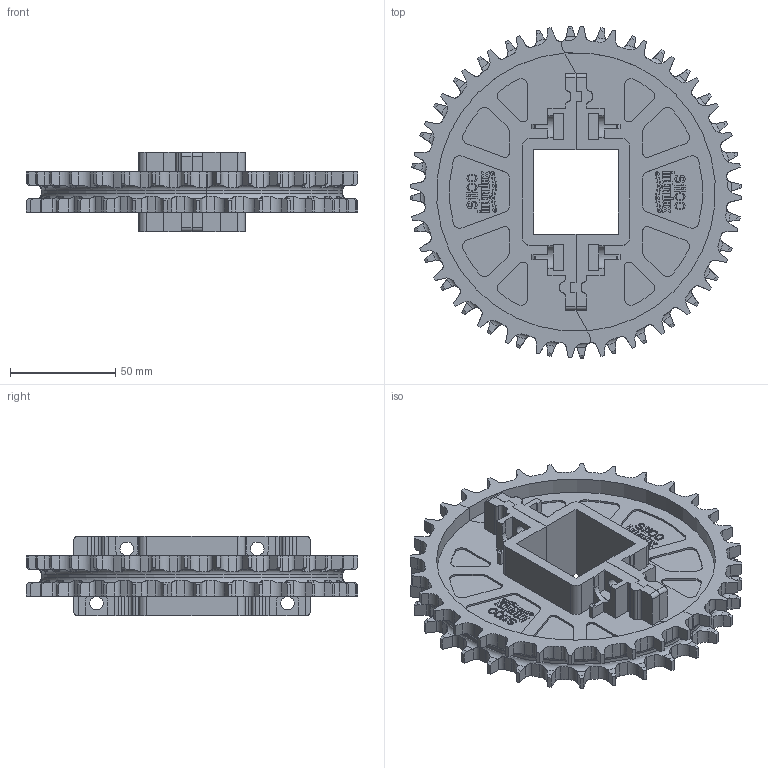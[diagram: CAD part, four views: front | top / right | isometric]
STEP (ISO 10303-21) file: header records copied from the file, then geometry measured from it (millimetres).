
FILE_DESCRIPTION((''),'2;1');
FILE_NAME('S1100_EZ_SPLIT_61X15_40_SQ_ASM','2008-12-12T',('jmumphre'),(''),'PRO/ENGINEER BY PARAMETRIC TECHNOLOGY CORPORATION, 2008150','PRO/ENGINEER BY PARAMETRIC TECHNOLOGY CORPORATION, 2008150','');
FILE_SCHEMA(('CONFIG_CONTROL_DESIGN'));
Length unit declared in the file: inch
Products named in the file (3): S1100_EZ_SPLIT_61X15_40_SQ_AF0; S1100_EZ_SPLIT_61X15_40_SQ_AF1; S1100_EZ_SPLIT_61X15_40_SQ_ASM
Assembly tree (2 placements, depth 2):
  S1100_EZ_SPLIT_61X15_40_SQ_ASM
    S1100_EZ_SPLIT_61X15_40_SQ_AF0
    S1100_EZ_SPLIT_61X15_40_SQ_AF1
Bounding box: 157.56 x 157.56 x 37.59 mm (x, y, z)
Volume: 160147.7 mm3; surface area: 80707.2 mm2
Topology: 2 solids, 2 shells, 2514 faces, 7200 edges, 4792 vertices
Faces by surface type: plane 1896, cylinder 550, cone 64, torus 4
Entity records: 83058 total; most frequent: CARTESIAN_POINT 16695, ORIENTED_EDGE 14400, DIRECTION 13058, EDGE_CURVE 7200, VECTOR 5612, LINE 5612, VERTEX_POINT 4792, AXIS2_PLACEMENT_3D 3723
